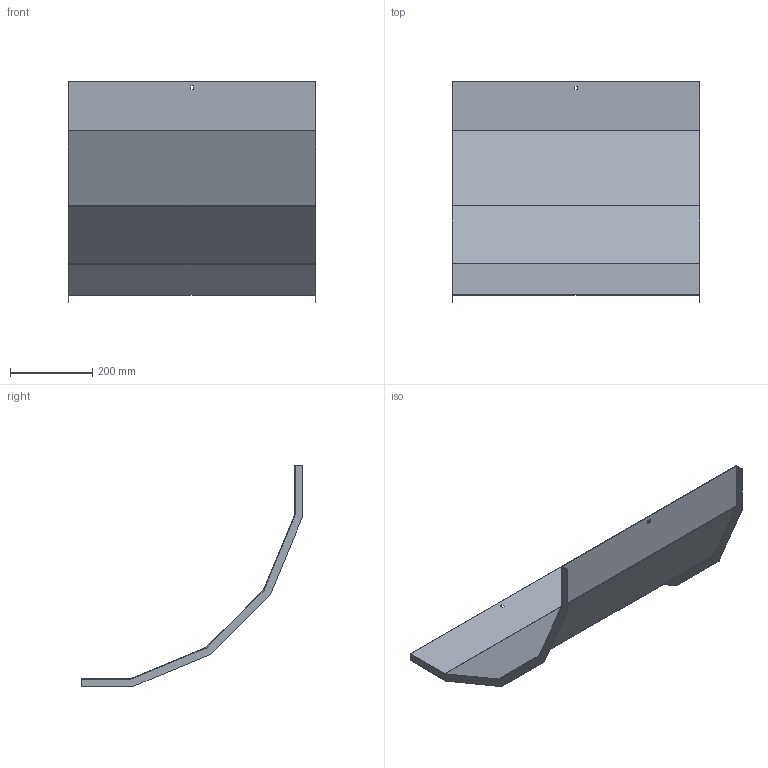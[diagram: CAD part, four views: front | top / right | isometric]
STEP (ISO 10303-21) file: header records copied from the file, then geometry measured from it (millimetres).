
FILE_DESCRIPTION (( 'STEP AP214' ), '1' );
FILE_NAME ('30N5R600_H150.step', '2025-02-21T14:29:45', ( '' ), ( '' ), 'SwSTEP 2.0', 'SolidWorks 2023', '' );
FILE_SCHEMA (( 'AUTOMOTIVE_DESIGN' ));
Length unit declared in the file: millimetre
Products named in the file (1): 30N5R600_H150
Bounding box: 603 x 540.72 x 540.72 mm (x, y, z)
Volume: 805373.4 mm3; surface area: 1078447.1 mm2
Topology: 1 solids, 1 shells, 34 faces, 96 edges, 64 vertices
Faces by surface type: plane 34
Entity records: 1111 total; most frequent: CARTESIAN_POINT 195, ORIENTED_EDGE 192, DIRECTION 166, VECTOR 96, EDGE_CURVE 96, LINE 96, VERTEX_POINT 64, EDGE_LOOP 38
